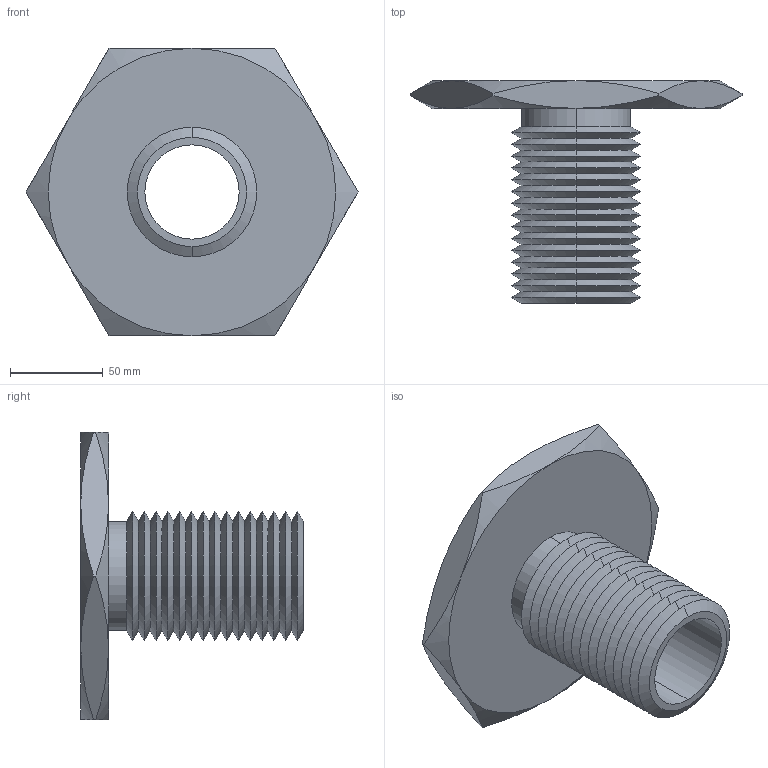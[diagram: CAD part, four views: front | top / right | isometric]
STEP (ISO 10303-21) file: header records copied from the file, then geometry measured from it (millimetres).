
FILE_DESCRIPTION (( 'STEP AP203' ), '1' );
FILE_NAME ('63302.W5275_2,00 UNC-4,5.step', '2013-12-08T11:56:26', ( 'User' ), ( '' ), 'SwSTEP 2.0', 'SolidWorks 2009', '' );
FILE_SCHEMA (( 'CONFIG_CONTROL_DESIGN' ));
Length unit declared in the file: millimetre
Products named in the file (1): 63302.W5275_2,00 UNC-4,5
Bounding box: 178.98 x 120 x 155 mm (x, y, z)
Volume: 395122.4 mm3; surface area: 102642.3 mm2
Topology: 1 solids, 1 shells, 87 faces, 178 edges, 94 vertices
Faces by surface type: cone 74, plane 9, cylinder 4
Entity records: 2479 total; most frequent: CARTESIAN_POINT 584, DIRECTION 412, ORIENTED_EDGE 356, EDGE_CURVE 178, AXIS2_PLACEMENT_3D 170, VERTEX_POINT 94, EDGE_LOOP 90, ADVANCED_FACE 87
